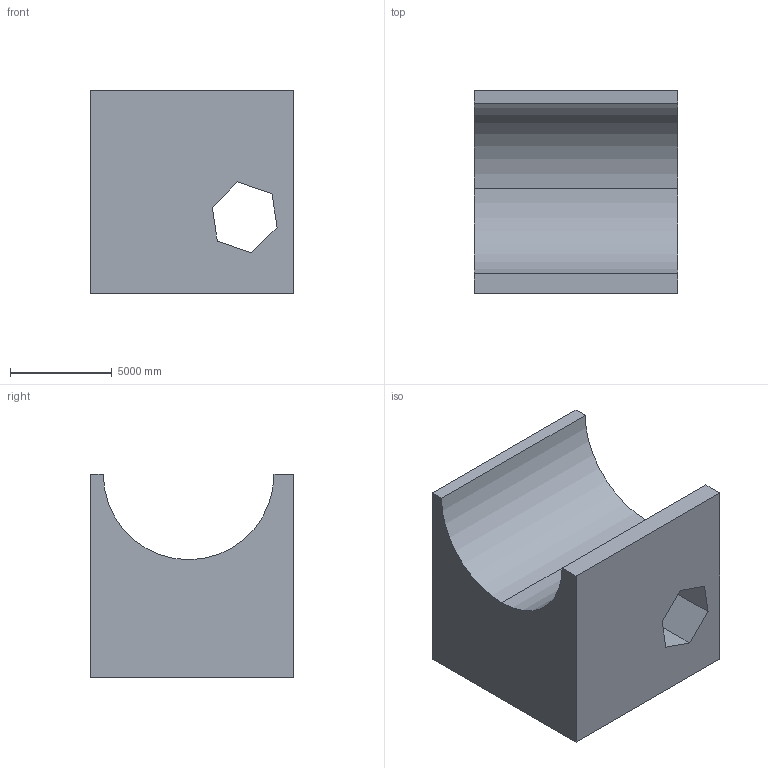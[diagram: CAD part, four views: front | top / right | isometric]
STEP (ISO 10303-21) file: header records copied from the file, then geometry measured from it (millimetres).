
FILE_DESCRIPTION (( 'STEP AP203' ), '1' );
FILE_NAME ('245.STEP', '2022-09-07T12:25:32', ( 'user' ), ( '' ), 'SwSTEP 2.0', 'SolidWorks 2021', '' );
FILE_SCHEMA (( 'CONFIG_CONTROL_DESIGN' ));
Length unit declared in the file: centimetre
Products named in the file (1): 245
Bounding box: 10000 x 10000 x 10000 mm (x, y, z)
Volume: 643314652880.5 mm3; surface area: 685387047.7 mm2
Topology: 1 solids, 1 shells, 18 faces, 48 edges, 32 vertices
Faces by surface type: plane 16, cylinder 2
Entity records: 637 total; most frequent: CARTESIAN_POINT 99, ORIENTED_EDGE 96, DIRECTION 90, EDGE_CURVE 48, VECTOR 44, LINE 44, VERTEX_POINT 32, AXIS2_PLACEMENT_3D 23
